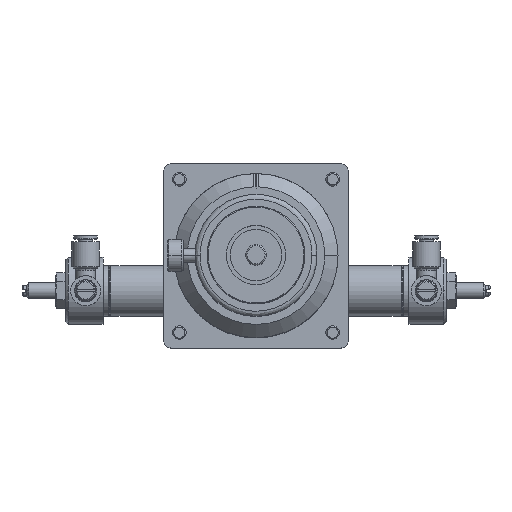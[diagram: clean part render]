
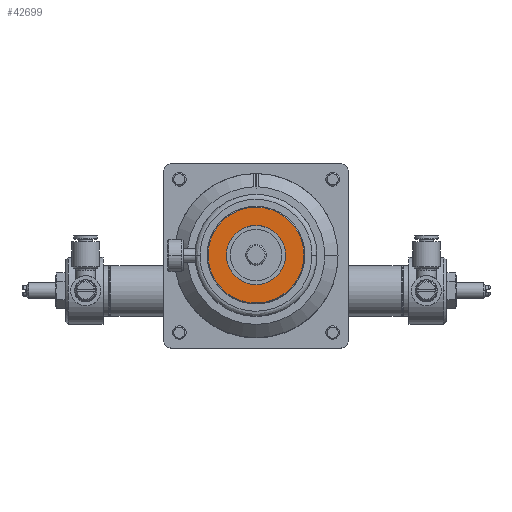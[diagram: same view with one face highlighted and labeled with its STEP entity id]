
A CAD part, top view. The second image highlights one B-rep face of the part: STEP entity #42699.
In plain terms, the highlighted planar face has unit normal (0, 0, 1).
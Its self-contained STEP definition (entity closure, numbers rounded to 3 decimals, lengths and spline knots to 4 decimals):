
#3974 = AXIS2_PLACEMENT_3D ( 'NONE', #39947, #39948, #39949 ) ;
#16645 = CIRCLE ( 'NONE', #17262, 0.908 ) ;
#17262 = AXIS2_PLACEMENT_3D ( 'NONE', #33766, #33768, #33770 ) ;
#19758 = CARTESIAN_POINT ( 'NONE',  ( -0.8522, 0., 0. ) ) ;
#20048 = PLANE ( 'NONE',  #55566 ) ;
#20052 = DIRECTION ( 'NONE',  ( 0., 0., 1. ) ) ;
#20054 = DIRECTION ( 'NONE',  ( 1., 0., 0. ) ) ;
#20222 = ORIENTED_EDGE ( 'NONE', *, *, #70760, .F. ) ;
#20346 = ORIENTED_EDGE ( 'NONE', *, *, #60100, .F. ) ;
#20561 = ORIENTED_EDGE ( 'NONE', *, *, #40495, .T. ) ;
#20693 = ORIENTED_EDGE ( 'NONE', *, *, #60900, .T. ) ;
#21955 = EDGE_LOOP ( 'NONE', ( #20561, #20693 ) ) ;
#22562 = EDGE_LOOP ( 'NONE', ( #20346, #20222 ) ) ;
#29710 = CARTESIAN_POINT ( 'NONE',  ( 1.4732, 0., 0. ) ) ;
#33766 = CARTESIAN_POINT ( 'NONE',  ( 0., 0., 0. ) ) ;
#33768 = DIRECTION ( 'NONE',  ( 0., 0., -1. ) ) ;
#33770 = DIRECTION ( 'NONE',  ( -1., 0., 0. ) ) ;
#35456 = FACE_OUTER_BOUND ( 'NONE', #22562, .T. ) ;
#35458 = FACE_BOUND ( 'NONE', #21955, .T. ) ;
#39947 = CARTESIAN_POINT ( 'NONE',  ( 0., 0., 0. ) ) ;
#39948 = DIRECTION ( 'NONE',  ( 0., 0., -1. ) ) ;
#39949 = DIRECTION ( 'NONE',  ( -1., 0., 0. ) ) ;
#40495 = EDGE_CURVE ( 'NONE', #73476, #74745, #78521, .T. ) ;
#42470 =( BOUNDED_CURVE ( )  B_SPLINE_CURVE ( 3, ( #49191, #49182, #49184, #49192 ),
 .UNSPECIFIED., .F., .F. ) 
 B_SPLINE_CURVE_WITH_KNOTS ( ( 4, 4 ),
 ( 0., 0.5 ),
 .UNSPECIFIED. ) 
 CURVE ( )  GEOMETRIC_REPRESENTATION_ITEM ( )  RATIONAL_B_SPLINE_CURVE ( ( 1., 0.333, 0.333, 1. ) ) 
 REPRESENTATION_ITEM ( '' )  );
#42699 = ADVANCED_FACE ( 'NONE', ( #35456, #35458 ), #20048, .T. ) ;
#43250 =( BOUNDED_CURVE ( )  B_SPLINE_CURVE ( 3, ( #52414, #52399, #52416, #52417 ),
 .UNSPECIFIED., .F., .T. ) 
 B_SPLINE_CURVE_WITH_KNOTS ( ( 4, 4 ),
 ( 0.5, 1. ),
 .UNSPECIFIED. ) 
 CURVE ( )  GEOMETRIC_REPRESENTATION_ITEM ( )  RATIONAL_B_SPLINE_CURVE ( ( 1., 0.333, 0.333, 1. ) ) 
 REPRESENTATION_ITEM ( '' )  );
#49182 = CARTESIAN_POINT ( 'NONE',  ( -1.4732, 2.9464, 0. ) ) ;
#49184 = CARTESIAN_POINT ( 'NONE',  ( 1.4732, 2.9464, 0. ) ) ;
#49191 = CARTESIAN_POINT ( 'NONE',  ( -1.4732, 0., 0. ) ) ;
#49192 = CARTESIAN_POINT ( 'NONE',  ( 1.4732, 0., 0. ) ) ;
#52399 = CARTESIAN_POINT ( 'NONE',  ( 1.4732, -2.9464, 0. ) ) ;
#52414 = CARTESIAN_POINT ( 'NONE',  ( 1.4732, 0., 0. ) ) ;
#52416 = CARTESIAN_POINT ( 'NONE',  ( -1.4732, -2.9464, 0. ) ) ;
#52417 = CARTESIAN_POINT ( 'NONE',  ( -1.4732, 0., 0. ) ) ;
#55566 = AXIS2_PLACEMENT_3D ( 'NONE', #19758, #20052, #20054 ) ;
#60100 = EDGE_CURVE ( 'NONE', #73407, #72323, #42470, .T. ) ;
#60900 = EDGE_CURVE ( 'NONE', #74745, #73476, #16645, .T. ) ;
#65479 = CARTESIAN_POINT ( 'NONE',  ( -1.4732, 0., 0. ) ) ;
#65562 = CARTESIAN_POINT ( 'NONE',  ( -0.908, 0., 0. ) ) ;
#65779 = CARTESIAN_POINT ( 'NONE',  ( 0.908, 0., 0. ) ) ;
#70760 = EDGE_CURVE ( 'NONE', #72323, #73407, #43250, .T. ) ;
#72323 = VERTEX_POINT ( 'NONE', #29710 ) ;
#73407 = VERTEX_POINT ( 'NONE', #65479 ) ;
#73476 = VERTEX_POINT ( 'NONE', #65562 ) ;
#74745 = VERTEX_POINT ( 'NONE', #65779 ) ;
#78521 = CIRCLE ( 'NONE', #3974, 0.908 ) ;
